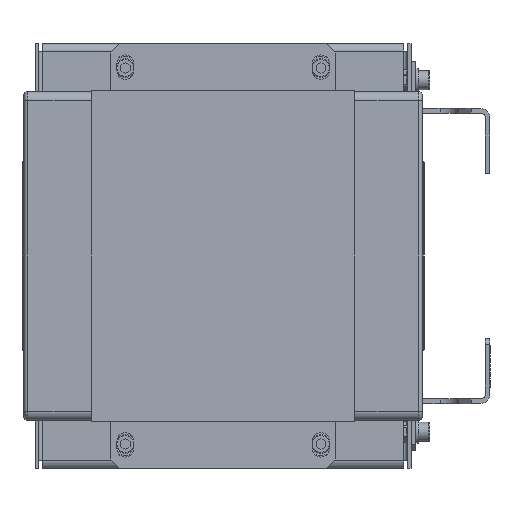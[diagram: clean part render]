
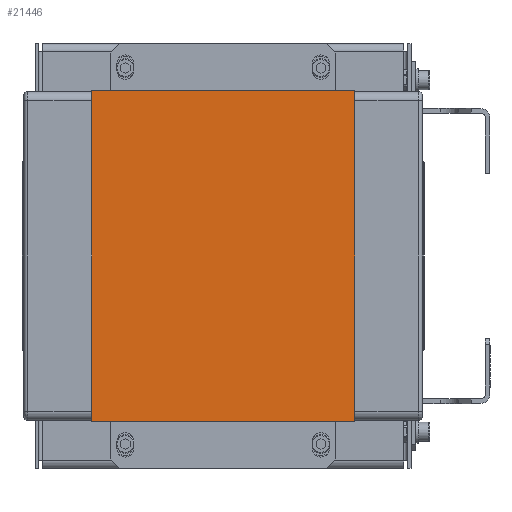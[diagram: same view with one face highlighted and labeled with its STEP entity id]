
A CAD part, front view. The second image highlights one B-rep face of the part: STEP entity #21446.
In plain terms, the highlighted planar face has unit normal (0, -1, 0).
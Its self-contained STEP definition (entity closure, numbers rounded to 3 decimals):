
#21316=CARTESIAN_POINT('',(173.285,231.801,-462.754));
#21317=VERTEX_POINT('',#21316);
#21318=CARTESIAN_POINT('',(33.285,231.801,-462.754));
#21319=VERTEX_POINT('',#21318);
#21320=CARTESIAN_POINT('',(173.285,231.801,-462.754));
#21321=DIRECTION('',(-1.0,0.0,0.0));
#21322=VECTOR('',#21321,140.0);
#21323=LINE('',#21320,#21322);
#21324=EDGE_CURVE('',#21317,#21319,#21323,.T.);
#21356=CARTESIAN_POINT('',(33.285,231.801,-286.754));
#21357=VERTEX_POINT('',#21356);
#21358=CARTESIAN_POINT('',(33.285,231.801,-462.754));
#21359=DIRECTION('',(0.0,0.0,1.0));
#21360=VECTOR('',#21359,176.0);
#21361=LINE('',#21358,#21360);
#21362=EDGE_CURVE('',#21319,#21357,#21361,.T.);
#21387=CARTESIAN_POINT('',(173.285,231.801,-286.754));
#21388=VERTEX_POINT('',#21387);
#21389=CARTESIAN_POINT('',(33.285,231.801,-286.754));
#21390=DIRECTION('',(1.0,0.0,0.0));
#21391=VECTOR('',#21390,140.0);
#21392=LINE('',#21389,#21391);
#21393=EDGE_CURVE('',#21357,#21388,#21392,.T.);
#21418=CARTESIAN_POINT('',(173.285,231.801,-286.754));
#21419=DIRECTION('',(0.0,0.0,-1.0));
#21420=VECTOR('',#21419,176.0);
#21421=LINE('',#21418,#21420);
#21422=EDGE_CURVE('',#21388,#21317,#21421,.T.);
#21435=CARTESIAN_POINT('',(187.285,231.801,-480.354));
#21436=DIRECTION('',(0.0,1.0,0.0));
#21437=DIRECTION('',(-1.0,0.0,0.0));
#21438=AXIS2_PLACEMENT_3D('',#21435,#21436,#21437);
#21439=PLANE('',#21438);
#21440=ORIENTED_EDGE('',*,*,#21422,.F.);
#21441=ORIENTED_EDGE('',*,*,#21393,.F.);
#21442=ORIENTED_EDGE('',*,*,#21362,.F.);
#21443=ORIENTED_EDGE('',*,*,#21324,.F.);
#21444=EDGE_LOOP('',(#21440,#21441,#21442,#21443));
#21445=FACE_OUTER_BOUND('',#21444,.T.);
#21446=ADVANCED_FACE('',(#21445),#21439,.F.);
